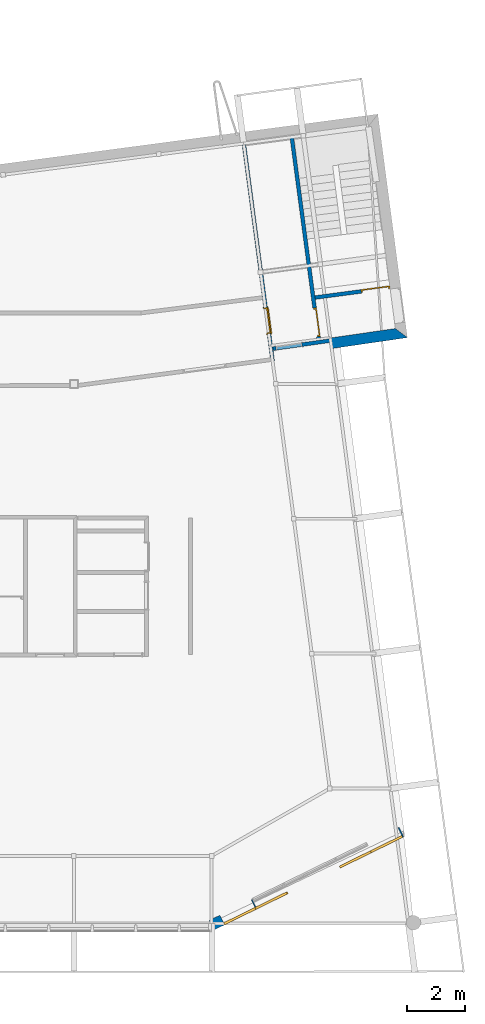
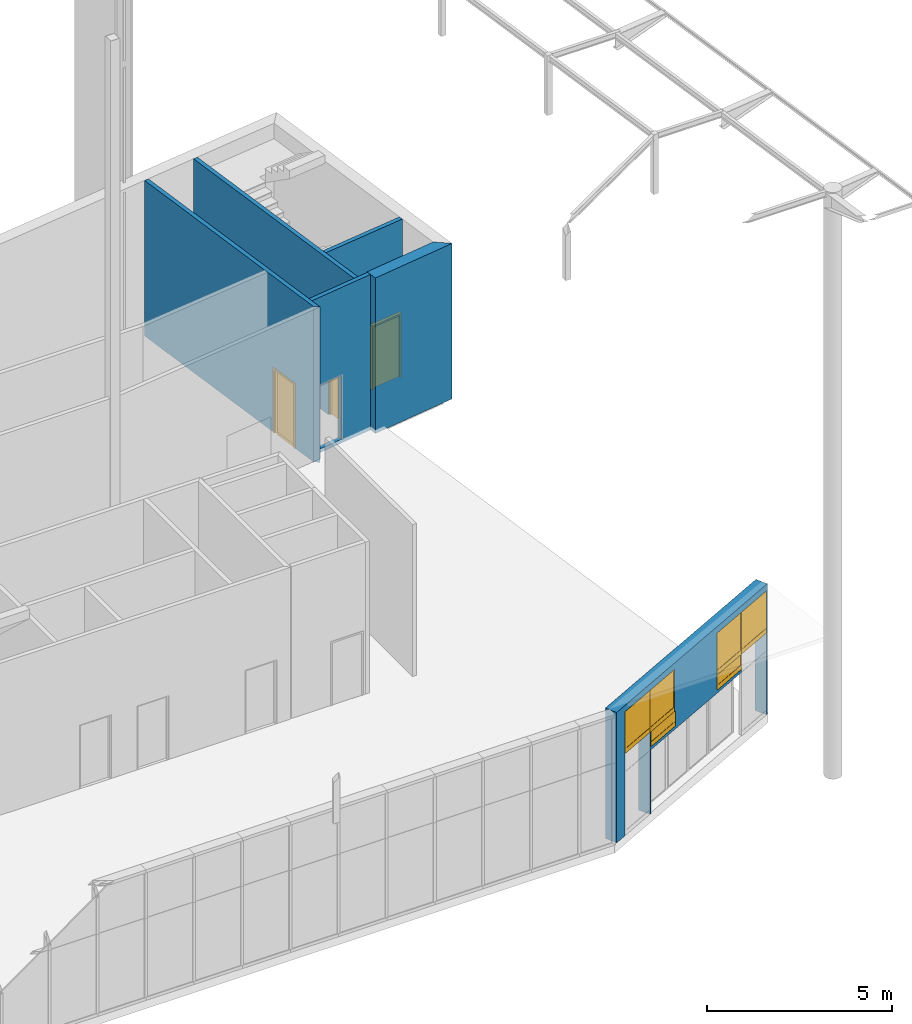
# One storey, part 28 of 40: 6 walls, 6 windows, 3 doors, 15 openings.
"""IFC2X3 building model written with IfcOpenShell, lengths in metres."""

from ifc_helpers import new_model, entity, si_unit, converted_unit, money_unit, direction, frame, origin_with_axes, origin_2d_with_axis, place, context, subcontext, project, spatial, polyline, rectangle, outline, extrude, faceted_brep, source, transform, mapped, material, material_list, layer, layer_set, layer_usage, type_object, element, fill, save


model = new_model("IFC2X3")

# Units and contexts
model_context = context("Model", 3, precision=1e-05, world=origin_with_axes(), true_north=direction((0.0, 1.0)))
body_context = subcontext(model_context, "Body", "Model", "MODEL_VIEW")
ifc_project = project(units=[si_unit("LENGTHUNIT", "METRE"), si_unit("AREAUNIT", "SQUARE_METRE"), si_unit("VOLUMEUNIT", "CUBIC_METRE"), converted_unit("PLANEANGLEUNIT", "DEGREE", entity("IfcPlaneAngleMeasure", 0.0174532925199), si_unit("PLANEANGLEUNIT", "RADIAN"), dimensions=[0, 0, 0, 0, 0, 0, 0]), si_unit("SOLIDANGLEUNIT", "STERADIAN"), money_unit("EUR"), converted_unit("TIMEUNIT", "Year", entity("IfcTimeMeasure", 31556926.0), si_unit("TIMEUNIT", "SECOND"), dimensions=[0, 0, 0, 0, 0, 0, 0]), si_unit("MASSUNIT", "GRAM"), si_unit("THERMODYNAMICTEMPERATUREUNIT", "DEGREE_CELSIUS"), si_unit("LUMINOUSINTENSITYUNIT", "LUMEN")], contexts=[model_context])

# Site, building, storey
site_placement = place(None, origin_with_axes())
site = spatial("IfcSite", under=ifc_project, at=site_placement, Name="Undefined", CompositionType="ELEMENT")
building_placement = place(site_placement, origin_with_axes())
building = spatial("IfcBuilding", under=site, at=building_placement, Name="Undefined", CompositionType="ELEMENT")
storey_placement = place(building_placement, origin_with_axes())
storey = spatial("IfcBuildingStorey", under=building, at=storey_placement, Name="Rez de chauss\x8ee", CompositionType="ELEMENT", Elevation=0.0)

# Wall, opening, door
ifc_material_1 = material(Name="Finition int - Enduit pl\x89tre")
ifc_layer_1 = layer(ifc_material_1, 0.015, ventilated="UNKNOWN")
ifc_material_2 = material(Name="Struct. - Parpaing b\x8eton")
ifc_layer_2 = layer(ifc_material_2, 0.1, ventilated="UNKNOWN")
ifc_layer_3 = layer(ifc_material_1, 0.015, ventilated="UNKNOWN")
ifc_layer_set_1 = layer_set([ifc_layer_1, ifc_layer_2, ifc_layer_3], Name="0.0-Cloison: parpaing + pl\x89tre 2 faces copie")
ifc_layer_usage_1 = layer_usage(ifc_layer_set_1, "AXIS2", "POSITIVE", 0.0)
wall_type_1 = type_object("IfcWallType", Name="0.0-Cloison: parpaing + pl\x89tre 2 faces copie 130", PredefinedType="NOTDEFINED")
wall_1_placement = place(storey_placement, frame((65.1767239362, 21.5120958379, -0.1), z_axis=(0.0, 0.0, 1.0), x_axis=(0.99119748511, 0.132391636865, 0.0)))
wall_1 = element("IfcWallStandardCase", 1, at=wall_1_placement, inside=storey, type_object=wall_type_1, material=ifc_layer_usage_1, Name="Wall_Int_02", context=body_context, shape_type="SweptSolid", body=[
    extrude(outline(polyline([(0.0, 0.0), (2.6036897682, 0.0), (2.60383514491, 0.13), (0.0, 0.13), (0.0, 0.0)])), origin_with_axes(), (0.0, 0.0, 1.0), 5.22),
])
opening_1_placement = place(wall_1_placement, frame((2.10370326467, 0.0, 0.0), z_axis=(0.0, 0.0, 1.0), x_axis=(1.0, 0.0, 0.0)))
opening_1 = element("IfcOpeningElement", 2, at=opening_1_placement, cuts=wall_1, Name="DOOR_1000", context=body_context, shape_type="SweptSolid", body=[
    extrude(rectangle(XDim=1.0, YDim=2.1, at=origin_2d_with_axis()), frame((0.0, 0.26, 1.05), z_axis=(0.0, -1.0, 0.0), x_axis=(1.0, 0.0, 0.0)), (0.0, 0.0, 1.0), 0.13),
    extrude(rectangle(XDim=1.0, YDim=2.1, at=origin_2d_with_axis()), frame((0.0, 0.0, 1.05), z_axis=(0.0, 1.0, 0.0), x_axis=(1.0, 0.0, 0.0)), (0.0, 0.0, 1.0), 0.13),
])
ifc_material_3 = material(Name="Background Fill-International")
ifc_material_4 = material(Name="Air Space")
ifc_material_list_1 = material_list([ifc_material_3, ifc_material_4])
door_style_1 = type_object("IfcDoorStyle", Name="IFC Porte - Simple battant", ConstructionType="NOTDEFINED", OperationType="SINGLE_SWING_RIGHT", ParameterTakesPrecedence=True, Sizeable=False)
shared_shape_1 = source(origin_with_axes(), body_context, "Body", "Brep", [
    faceted_brep([(-0.5, 0.0, 0.0), (-0.45, 0.0, 0.0), (-0.45, -0.1, 0.0), (-0.5, -0.1, 0.0), (-0.5, 0.0, 2.1), (0.5, 0.0, 2.1), (0.5, 0.0, 0.0), (0.45, 0.0, 0.0), (0.45, 0.0, 2.05), (-0.45, 0.0, 2.05), (-0.45, -0.1, 2.05), (0.45, -0.1, 2.05), (0.45, -0.1, 0.0), (0.5, -0.1, 0.0), (0.5, -0.1, 2.1), (-0.5, -0.1, 2.1)], [[[0, 1, 2, 3]], [[0, 4, 5, 6, 7, 8, 9, 1]], [[1, 9, 10, 2]], [[3, 2, 10, 11, 12, 13, 14, 15]], [[4, 0, 3, 15]], [[5, 4, 15, 14]], [[6, 5, 14, 13]], [[7, 6, 13, 12]], [[8, 7, 12, 11]], [[9, 8, 11, 10]]]),
    faceted_brep([(0.45, 0.0, 0.0), (0.45, 0.0, 2.05), (0.45, -0.04, 2.05), (0.45, -0.04, 0.0), (-0.45, 0.0, 0.0), (-0.45, 0.0, 2.05), (-0.45, -0.04, 2.05), (-0.45, -0.04, 0.0)], [[[0, 1, 2, 3]], [[0, 4, 5, 1]], [[1, 5, 6, 2]], [[3, 2, 6, 7]], [[4, 0, 3, 7]], [[5, 4, 7, 6]]]),
])
door_1_placement = place(opening_1_placement, frame((-0.5, 0.0, 0.0), z_axis=(0.0, 0.0, 1.0), x_axis=(1.0, 0.0, 0.0)))
door_1 = element("IfcDoor", 3, at=door_1_placement, inside=storey, type_object=door_style_1, material=ifc_material_list_1, Name="DOOR_1000", ObjectType="DOOR", OverallHeight=2.1, OverallWidth=1.0, context=body_context, shape_type="MappedRepresentation", body=[
    mapped(shared_shape_1, transform((0.5, 0.13, 0.0))),
])
fill(opening_1, door_1)

# Wall, opening
ifc_layer_usage_2 = layer_usage(ifc_layer_set_1, "AXIS2", "NEGATIVE", 0.065)
wall_2_placement = place(storey_placement, frame((65.7020913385, 20.0943082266, 0.0), z_axis=(0.0, 0.0, 1.0), x_axis=(-0.990097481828, -0.140381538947, 0.0)))
wall_2 = element("IfcWallStandardCase", 4, at=wall_2_placement, inside=storey, type_object=wall_type_1, material=ifc_layer_usage_2, Name="Wall_Int_06", context=body_context, shape_type="SweptSolid", body=[
    extrude(outline(polyline([(0.0, -0.065), (2.00739739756, -0.065), (2.00858857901, 0.065), (0.0, 0.065), (0.0, -0.065)])), origin_with_axes(), (0.0, 0.0, 1.0), 5.12),
])
opening_2_placement = place(wall_2_placement, frame((1.44758118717, 0.0, 0.12), z_axis=(0.0, 0.0, 1.0), x_axis=(1.0, 0.0, 0.0)))
element("IfcOpeningElement", 5, at=opening_2_placement, cuts=wall_2, Name="DOOR_1000", context=body_context, shape_type="SweptSolid", body=[
    extrude(rectangle(XDim=0.9, YDim=2.1, at=origin_2d_with_axis()), frame((0.0, 0.13, 1.05), z_axis=(0.0, -1.0, 0.0), x_axis=(-1.0, 0.0, 0.0)), (0.0, 0.0, 1.0), 0.39),
    extrude(rectangle(XDim=0.974, YDim=2.137, at=origin_2d_with_axis()), frame((0.0, 0.195, 1.0685), z_axis=(0.0, -1.0, 0.0), x_axis=(-1.0, 0.0, 0.0)), (0.0, 0.0, 1.0), 0.13),
    extrude(rectangle(XDim=0.974, YDim=2.137, at=origin_2d_with_axis()), frame((0.0, -0.195, 1.0685), z_axis=(0.0, 1.0, 0.0), x_axis=(-1.0, 0.0, 0.0)), (0.0, 0.0, 1.0), 0.13),
])

# Wall, opening, door
ifc_layer_usage_3 = layer_usage(ifc_layer_set_1, "AXIS2", "NEGATIVE", 0.065)
wall_3_placement = place(storey_placement, frame((62.6592545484, 27.280570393, 0.0), z_axis=(0.0, 0.0, 1.0), x_axis=(0.131303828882, -0.991342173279, 0.0)))
wall_3 = element("IfcWallStandardCase", 6, at=wall_3_placement, inside=storey, type_object=wall_type_1, material=ifc_layer_usage_3, Name="Wall_Int_05", context=body_context, shape_type="SweptSolid", body=[
    extrude(outline(polyline([(0.370027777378, -0.065), (7.84212147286, -0.065), (7.97199658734, 0.065), (0.369972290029, 0.065), (0.370027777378, -0.065)])), origin_with_axes(), (0.0, 0.0, 1.0), 5.12),
])
opening_3_placement = place(wall_3_placement, frame((6.55797103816, 0.0, 0.0), z_axis=(0.0, 0.0, 1.0), x_axis=(1.0, 0.0, 0.0)))
opening_3 = element("IfcOpeningElement", 7, at=opening_3_placement, cuts=wall_3, Name="DOOR_1000", context=body_context, shape_type="SweptSolid", body=[
    extrude(rectangle(XDim=0.9, YDim=2.1, at=origin_2d_with_axis()), frame((0.0, -0.13, 1.05), z_axis=(0.0, -1.0, 0.0), x_axis=(-1.0, 0.0, 0.0)), (0.0, 0.0, -1.0), 0.39),
    extrude(rectangle(XDim=0.9, YDim=0.105069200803, at=origin_2d_with_axis()), frame((0.0, 0.195, -0.0525346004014), z_axis=(0.0, 1.0, 0.0), x_axis=(-1.0, 0.0, 0.0)), (0.0, 0.0, -1.0), 0.167364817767),
    extrude(rectangle(XDim=0.974, YDim=2.137, at=origin_2d_with_axis()), frame((0.0, -0.195, 1.0685), z_axis=(0.0, -1.0, 0.0), x_axis=(-1.0, 0.0, 0.0)), (0.0, 0.0, -1.0), 0.13),
    extrude(rectangle(XDim=0.974, YDim=2.2420692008, at=origin_2d_with_axis()), frame((0.0, 0.195, 1.0159653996), z_axis=(0.0, 1.0, 0.0), x_axis=(-1.0, 0.0, 0.0)), (0.0, 0.0, -1.0), 0.13),
])
ifc_material_5 = material(Name="Foreground Fill-International")
ifc_material_6 = material(Name="07 | Insulation Rigid")
ifc_material_list_2 = material_list([ifc_material_3, ifc_material_4, ifc_material_5, ifc_material_3, ifc_material_3, ifc_material_3, ifc_material_3, ifc_material_6, ifc_material_3, ifc_material_3, ifc_material_3, ifc_material_3, ifc_material_4, ifc_material_3, ifc_material_3, ifc_material_3])
door_style_2 = type_object("IfcDoorStyle", Name="Porte 18", ConstructionType="NOTDEFINED", OperationType="SINGLE_SWING_LEFT", ParameterTakesPrecedence=False, Sizeable=False)
shared_shape_2 = source(origin_with_axes(), body_context, "Body", "Brep", [
    faceted_brep([(0.45, -0.02, 0.0), (0.45, 0.0373648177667, -0.0101149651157), (-0.45, 0.0373648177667, -0.0101149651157), (-0.45, -0.02, 0.0), (0.45, -0.0373648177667, -0.0984807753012), (0.45, 0.02, -0.108595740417), (-0.45, 0.02, -0.108595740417), (-0.45, -0.0373648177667, -0.0984807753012)], [[[0, 1, 2, 3]], [[0, 4, 5, 1]], [[1, 5, 6, 2]], [[3, 2, 6, 7]], [[4, 0, 3, 7]], [[5, 4, 7, 6]]]),
    faceted_brep([(0.45, -0.115, 0.0), (0.45, -0.13, 0.0), (0.425, -0.13, 0.0), (0.425, -0.115, 0.0), (0.45, -0.115, 2.1), (0.45, -0.13, 2.1), (0.425, -0.13, 2.075), (0.425, -0.115, 2.075)], [[[0, 1, 2, 3]], [[4, 5, 1, 0]], [[1, 5, 6, 2]], [[3, 2, 6, 7]], [[0, 3, 7, 4]], [[7, 6, 5, 4]]]),
    faceted_brep([(-0.45, -0.115, 2.1), (-0.45, -0.13, 2.1), (-0.425, -0.13, 2.075), (-0.425, -0.115, 2.075), (-0.45, -0.115, 0.0), (-0.45, -0.13, 0.0), (-0.425, -0.13, 0.0), (-0.425, -0.115, 0.0)], [[[0, 1, 2, 3]], [[4, 5, 1, 0]], [[1, 5, 6, 2]], [[3, 2, 6, 7]], [[0, 3, 7, 4]], [[7, 6, 5, 4]]]),
    faceted_brep([(0.425, -0.115, 2.075), (0.425, -0.13, 2.075), (-0.425, -0.13, 2.075), (-0.425, -0.115, 2.075), (0.45, -0.115, 2.1), (0.45, -0.13, 2.1), (-0.45, -0.13, 2.1), (-0.45, -0.115, 2.1)], [[[0, 1, 2, 3]], [[4, 5, 1, 0]], [[1, 5, 6, 2]], [[3, 2, 6, 7]], [[0, 3, 7, 4]], [[7, 6, 5, 4]]]),
    faceted_brep([(0.487, -0.149, 0.0), (0.437, -0.149, 0.0), (0.437, -0.13, 0.0), (0.487, -0.13, 0.0), (0.487, -0.149, 2.137), (0.437, -0.149, 2.087), (0.437, -0.13, 2.087), (0.487, -0.13, 2.137)], [[[0, 1, 2, 3]], [[0, 4, 5, 1]], [[1, 5, 6, 2]], [[3, 2, 6, 7]], [[4, 0, 3, 7]], [[5, 4, 7, 6]]]),
    faceted_brep([(-0.487, -0.149, 2.137), (-0.437, -0.149, 2.087), (-0.437, -0.13, 2.087), (-0.487, -0.13, 2.137), (-0.487, -0.149, 0.0), (-0.437, -0.149, 0.0), (-0.437, -0.13, 0.0), (-0.487, -0.13, 0.0)], [[[0, 1, 2, 3]], [[0, 4, 5, 1]], [[1, 5, 6, 2]], [[3, 2, 6, 7]], [[4, 0, 3, 7]], [[5, 4, 7, 6]]]),
    faceted_brep([(0.487, -0.149, 2.137), (0.437, -0.149, 2.087), (0.437, -0.13, 2.087), (0.487, -0.13, 2.137), (-0.487, -0.149, 2.137), (-0.437, -0.149, 2.087), (-0.437, -0.13, 2.087), (-0.487, -0.13, 2.137)], [[[0, 1, 2, 3]], [[0, 4, 5, 1]], [[1, 5, 6, 2]], [[3, 2, 6, 7]], [[4, 0, 3, 7]], [[5, 4, 7, 6]]]),
    faceted_brep([(0.45, 0.0, -0.00352653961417), (0.487, 0.0, -0.00352653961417), (0.487, 0.0, 2.137), (0.437, 0.0, 2.087), (0.437, 0.0, -0.00352653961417), (0.45, 0.019, -0.00687675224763), (0.487, 0.019, -0.00687675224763), (0.487, 0.019, 2.137), (0.437, 0.019, 2.087), (0.437, 0.019, -0.00687675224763)], [[[0, 1, 2, 3, 4]], [[0, 5, 6, 1]], [[2, 1, 6, 7]], [[3, 2, 7, 8]], [[4, 3, 8, 9]], [[9, 5, 0, 4]], [[5, 9, 8, 7, 6]]]),
    faceted_brep([(-0.45, 0.0, -0.00352653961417), (-0.437, 0.0, -0.00352653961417), (-0.437, 0.0, 2.087), (-0.487, 0.0, 2.137), (-0.487, 0.0, -0.00352653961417), (-0.45, 0.019, -0.00687675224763), (-0.437, 0.019, -0.00687675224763), (-0.437, 0.019, 2.087), (-0.487, 0.019, 2.137), (-0.487, 0.019, -0.00687675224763)], [[[0, 1, 2, 3, 4]], [[0, 5, 6, 1]], [[6, 7, 2, 1]], [[3, 2, 7, 8]], [[9, 4, 3, 8]], [[0, 4, 9, 5]], [[5, 9, 8, 7, 6]]]),
    faceted_brep([(0.487, 0.019, 2.137), (0.487, 0.0, 2.137), (0.437, 0.0, 2.087), (0.437, 0.019, 2.087), (-0.487, 0.019, 2.137), (-0.487, 0.0, 2.137), (-0.437, 0.0, 2.087), (-0.437, 0.019, 2.087)], [[[0, 1, 2, 3]], [[4, 5, 1, 0]], [[1, 5, 6, 2]], [[3, 2, 6, 7]], [[0, 3, 7, 4]], [[7, 6, 5, 4]]]),
    faceted_brep([(0.41, -0.04, 0.0), (0.41, -0.115, 0.0), (0.41, -0.115, 2.06), (0.41, -0.04, 2.06), (0.422, -0.04, 0.0), (0.422, 0.0, 0.0), (0.45, 0.0, 0.0), (0.45, -0.115, 0.0), (0.45, -0.115, 2.06), (0.422, -0.04, 2.06), (0.45, 0.0, 2.06), (0.422, 0.0, 2.06)], [[[0, 1, 2, 3]], [[4, 5, 6, 7, 1, 0]], [[8, 2, 1, 7]], [[9, 3, 2, 8, 10, 11]], [[9, 4, 0, 3]], [[11, 5, 4, 9]], [[11, 10, 6, 5]], [[8, 7, 6, 10]]]),
    faceted_brep([(-0.422, -0.04, 2.06), (-0.422, 0.0, 2.06), (-0.45, 0.0, 2.06), (-0.45, -0.115, 2.06), (-0.41, -0.115, 2.06), (-0.41, -0.04, 2.06), (-0.422, -0.04, 0.0), (-0.422, 0.0, 0.0), (-0.45, 0.0, 0.0), (-0.45, -0.115, 0.0), (-0.41, -0.115, 0.0), (-0.41, -0.04, 0.0)], [[[0, 1, 2, 3, 4, 5]], [[0, 6, 7, 1]], [[7, 8, 2, 1]], [[9, 3, 2, 8]], [[10, 4, 3, 9]], [[5, 4, 10, 11]], [[5, 11, 6, 0]], [[6, 11, 10, 9, 8, 7]]]),
    faceted_brep([(0.422, 0.0, 2.072), (-0.422, 0.0, 2.072), (-0.422, 0.0, 2.06), (-0.45, 0.0, 2.06), (-0.45, 0.0, 2.1), (0.45, 0.0, 2.1), (0.45, 0.0, 2.06), (0.422, 0.0, 2.06), (0.422, -0.04, 2.072), (-0.422, -0.04, 2.072), (-0.422, -0.04, 2.06), (-0.41, -0.04, 2.06), (-0.41, -0.115, 2.06), (-0.45, -0.115, 2.06), (-0.45, -0.115, 2.1), (0.45, -0.115, 2.1), (0.45, -0.115, 2.06), (0.422, -0.04, 2.06), (0.41, -0.115, 2.06), (0.41, -0.04, 2.06)], [[[0, 1, 2, 3, 4, 5, 6, 7]], [[0, 8, 9, 1]], [[1, 9, 10, 2]], [[10, 11, 12, 13, 3, 2]], [[13, 14, 4, 3]], [[14, 15, 5, 4]], [[15, 16, 6, 5]], [[17, 7, 6, 16, 18, 19]], [[7, 17, 8, 0]], [[10, 9, 8, 17, 19, 11]], [[19, 18, 12, 11]], [[14, 13, 12, 18, 16, 15]]]),
    faceted_brep([(-0.422, 0.0, 0.0), (0.422, 0.0, 0.0), (0.422, -0.04, 0.0), (-0.422, -0.04, 0.0), (-0.422, 0.0, 2.072), (0.422, 0.0, 2.072), (0.422, -0.04, 2.072), (-0.422, -0.04, 2.072)], [[[0, 1, 2, 3]], [[0, 4, 5, 1]], [[1, 5, 6, 2]], [[3, 2, 6, 7]], [[4, 0, 3, 7]], [[5, 4, 7, 6]]]),
])
door_2_placement = place(opening_3_placement, frame((-0.45, 0.0, 0.0), z_axis=(0.0, 0.0, 1.0), x_axis=(1.0, 0.0, 0.0)))
door_2 = element("IfcDoor", 8, at=door_2_placement, inside=storey, type_object=door_style_2, material=ifc_material_list_2, Name="DOOR_1000", ObjectType="DOOR", OverallHeight=2.1, OverallWidth=0.9, context=body_context, shape_type="MappedRepresentation", body=[
    mapped(shared_shape_2, transform((0.45, 0.065, 0.0))),
])
fill(opening_3, door_2)

ifc_layer_usage_4 = layer_usage(ifc_layer_set_1, "AXIS2", "POSITIVE", 0.0)
wall_4_placement = place(storey_placement, frame((65.3723389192, 20.0475540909, 0.0), z_axis=(0.0, 0.0, 1.0), x_axis=(-0.132391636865, 0.99119748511, 0.0)))
wall_4 = element("IfcWallStandardCase", 9, at=wall_4_placement, inside=storey, type_object=wall_type_1, material=ifc_layer_usage_4, Name="VOILE_15CM", ObjectType="5850*150", context=body_context, shape_type="SweptSolid", body=[
    extrude(outline(polyline([(0.0650021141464, 0.0), (7.15737601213, 0.0), (7.15746318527, 0.13), (0.0639536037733, 0.13), (0.0650021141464, 0.0)])), origin_with_axes(), (0.0, 0.0, 1.0), 5.12),
])
opening_4_placement = place(wall_4_placement, frame((0.69384941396, 0.0, 0.0), z_axis=(0.0, 0.0, 1.0), x_axis=(1.0, 0.0, 0.0)))
opening_4 = element("IfcOpeningElement", 10, at=opening_4_placement, cuts=wall_4, Name="DOOR_1000", context=body_context, shape_type="SweptSolid", body=[
    extrude(rectangle(XDim=1.0, YDim=2.1, at=origin_2d_with_axis()), frame((0.0, -0.13, 1.05), z_axis=(0.0, 1.0, 0.0), x_axis=(1.0, 0.0, 0.0)), (0.0, 0.0, 1.0), 0.13),
    extrude(rectangle(XDim=1.0, YDim=2.1, at=origin_2d_with_axis()), frame((0.0, 0.13, 1.05), z_axis=(0.0, -1.0, 0.0), x_axis=(1.0, 0.0, 0.0)), (0.0, 0.0, 1.0), 0.13),
])
door_style_3 = type_object("IfcDoorStyle", Name="IFC Porte - Simple battant", ConstructionType="NOTDEFINED", OperationType="SINGLE_SWING_RIGHT", ParameterTakesPrecedence=True, Sizeable=False)
door_3_placement = place(opening_4_placement, frame((0.5, 0.0, 0.0), z_axis=(0.0, 0.0, 1.0), x_axis=(-1.0, 0.0, 0.0)))
door_3 = element("IfcDoor", 11, at=door_3_placement, inside=storey, type_object=door_style_3, material=ifc_material_list_1, Name="DOOR_1000", ObjectType="DOOR", OverallHeight=2.1, OverallWidth=1.0, context=body_context, shape_type="MappedRepresentation", body=[
    mapped(shared_shape_1, transform((0.5, 0.0, 0.0))),
])
fill(opening_4, door_3)

# Wall
ifc_material_7 = material(Name="Finition ext - Cr\x8epis")
ifc_layer_4 = layer(ifc_material_7, 0.015, ventilated="UNKNOWN")
ifc_material_8 = material(Name="Isolation - Fibres de bois")
ifc_layer_5 = layer(ifc_material_8, 0.16, ventilated="UNKNOWN")
ifc_material_9 = material(Name="Struct. - B.A. banch\x8e")
ifc_layer_6 = layer(ifc_material_9, 0.18, ventilated="UNKNOWN")
ifc_layer_7 = layer(ifc_material_1, 0.015, ventilated="UNKNOWN")
ifc_layer_set_2 = layer_set([ifc_layer_4, ifc_layer_5, ifc_layer_6, ifc_layer_7], Name="1.2-Mur ext: rev\x8et ext + isol ext + ma\x8donnerie + enduit")
ifc_layer_usage_5 = layer_usage(ifc_layer_set_2, "AXIS2", "POSITIVE", 0.0)
wall_type_2 = type_object("IfcWallType", Name="1.2-Mur ext: rev\x8et ext + isol ext + ma\x8donnerie + enduit 370", PredefinedType="NOTDEFINED")
wall_5_placement = place(storey_placement, frame((65.7425419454, 19.8172449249, 0.0), z_axis=(0.0, 0.0, 1.0), x_axis=(0.989654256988, 0.143472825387, 0.0)))
element("IfcWallStandardCase", 12, at=wall_5_placement, inside=storey, type_object=wall_type_2, material=ifc_layer_usage_5, Name="ExtWall_01", ObjectType="WALL", context=body_context, shape_type="SweptSolid", body=[
    extrude(outline(polyline([(0.0, 0.0), (2.63547220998, 0.0), (2.26999781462, 0.37), (0.0, 0.37), (0.0, 0.0)])), origin_with_axes(), (0.0, 0.0, 1.0), 5.12),
])

# Wall, openings, windows
ifc_layer_usage_6 = layer_usage(ifc_layer_set_2, "AXIS2", "NEGATIVE", 0.185)
wall_6_placement = place(storey_placement, frame((68.1452534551, 3.14749727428, 0.1), z_axis=(0.0, 0.0, 1.0), x_axis=(-0.897767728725, -0.440469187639, 0.0)))
wall_6 = element("IfcWallStandardCase", 13, at=wall_6_placement, inside=storey, type_object=wall_type_2, material=ifc_layer_usage_6, Name="SW - 013", ObjectType="WALL", context=body_context, shape_type="SweptSolid", body=[
    extrude(outline(polyline([(0.0, -0.185), (7.28970277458, -0.185), (7.28970277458, 0.185), (0.0, 0.185), (0.0, -0.185)])), origin_with_axes(), (0.0, 0.0, 1.0), 4.2926011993),
])
opening_5_placement = place(wall_6_placement, frame((6.28183813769, 0.0, 0.0), z_axis=(0.0, 0.0, 1.0), x_axis=(1.0, 0.0, 0.0)))
element("IfcOpeningElement", 14, at=opening_5_placement, cuts=wall_6, Name="WD - 003", context=body_context, shape_type="SweptSolid", body=[
    extrude(rectangle(XDim=1.2, YDim=2.7, at=origin_2d_with_axis()), frame((0.0, -0.37, 1.35), z_axis=(0.0, 1.0, 0.0), x_axis=(1.0, 0.0, 0.0)), (0.0, 0.0, 1.0), 1.11),
])
opening_6_placement = place(wall_6_placement, frame((5.08183813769, 0.0, 2.7), z_axis=(0.0, 0.0, 1.0), x_axis=(1.0, 0.0, 0.0)))
opening_6 = element("IfcOpeningElement", 15, at=opening_6_placement, cuts=wall_6, Name="WD - 003", context=body_context, shape_type="SweptSolid", body=[
    extrude(rectangle(XDim=1.2, YDim=1.38165160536, at=origin_2d_with_axis()), frame((0.0, -0.37, 0.690825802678), z_axis=(0.0, 1.0, 0.0), x_axis=(1.0, 0.0, 0.0)), (0.0, 0.0, 1.0), 1.11),
])
opening_7_placement = place(wall_6_placement, frame((6.28183813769, 0.0, 2.7), z_axis=(0.0, 0.0, 1.0), x_axis=(1.0, 0.0, 0.0)))
opening_7 = element("IfcOpeningElement", 16, at=opening_7_placement, cuts=wall_6, Name="WD - 003", context=body_context, shape_type="SweptSolid", body=[
    extrude(rectangle(XDim=1.2, YDim=1.38165160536, at=origin_2d_with_axis()), frame((0.0, -0.37, 0.690825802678), z_axis=(0.0, 1.0, 0.0), x_axis=(1.0, 0.0, 0.0)), (0.0, 0.0, 1.0), 1.11),
])
opening_8_placement = place(wall_6_placement, frame((0.641172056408, 0.0, 0.0), z_axis=(0.0, 0.0, 1.0), x_axis=(1.0, 0.0, 0.0)))
element("IfcOpeningElement", 17, at=opening_8_placement, cuts=wall_6, Name="WD - 003", context=body_context, shape_type="SweptSolid", body=[
    extrude(rectangle(XDim=1.2, YDim=2.7, at=origin_2d_with_axis()), frame((0.0, -0.37, 1.35), z_axis=(0.0, 1.0, 0.0), x_axis=(1.0, 0.0, 0.0)), (0.0, 0.0, 1.0), 1.11),
])
opening_9_placement = place(wall_6_placement, frame((0.641172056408, 0.0, 2.7), z_axis=(0.0, 0.0, 1.0), x_axis=(1.0, 0.0, 0.0)))
opening_9 = element("IfcOpeningElement", 18, at=opening_9_placement, cuts=wall_6, Name="WD - 003", context=body_context, shape_type="SweptSolid", body=[
    extrude(rectangle(XDim=1.2, YDim=1.38165160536, at=origin_2d_with_axis()), frame((0.0, -0.37, 0.690825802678), z_axis=(0.0, 1.0, 0.0), x_axis=(1.0, 0.0, 0.0)), (0.0, 0.0, 1.0), 1.11),
])
opening_10_placement = place(wall_6_placement, frame((1.84117205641, 0.0, 2.7), z_axis=(0.0, 0.0, 1.0), x_axis=(1.0, 0.0, 0.0)))
opening_10 = element("IfcOpeningElement", 19, at=opening_10_placement, cuts=wall_6, Name="WD - 003", context=body_context, shape_type="SweptSolid", body=[
    extrude(rectangle(XDim=1.2, YDim=1.38165160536, at=origin_2d_with_axis()), frame((0.0, -0.37, 0.690825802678), z_axis=(0.0, 1.0, 0.0), x_axis=(1.0, 0.0, 0.0)), (0.0, 0.0, 1.0), 1.11),
])
opening_11_placement = place(wall_6_placement, frame((5.04117205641, 0.0, 2.2), z_axis=(0.0, 0.0, 1.0), x_axis=(1.0, 0.0, 0.0)))
opening_11 = element("IfcOpeningElement", 20, at=opening_11_placement, cuts=wall_6, Name="WD - 003", context=body_context, shape_type="SweptSolid", body=[
    extrude(rectangle(XDim=1.2, YDim=0.5, at=origin_2d_with_axis()), frame((0.0, -0.37, 0.25), z_axis=(0.0, 1.0, 0.0), x_axis=(1.0, 0.0, 0.0)), (0.0, 0.0, 1.0), 1.11),
])
opening_12_placement = place(wall_6_placement, frame((1.84117205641, 0.0, 2.2), z_axis=(0.0, 0.0, 1.0), x_axis=(1.0, 0.0, 0.0)))
opening_12 = element("IfcOpeningElement", 21, at=opening_12_placement, cuts=wall_6, Name="WD - 003", context=body_context, shape_type="SweptSolid", body=[
    extrude(rectangle(XDim=1.2, YDim=0.5, at=origin_2d_with_axis()), frame((0.0, -0.37, 0.25), z_axis=(0.0, 1.0, 0.0), x_axis=(1.0, 0.0, 0.0)), (0.0, 0.0, 1.0), 1.11),
])
opening_13_placement = place(wall_6_placement, frame((5.04117205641, 0.0, 0.0), z_axis=(0.0, 0.0, 1.0), x_axis=(1.0, 0.0, 0.0)))
element("IfcOpeningElement", 22, at=opening_13_placement, cuts=wall_6, Name="DOOR", context=body_context, shape_type="SweptSolid", body=[
    extrude(rectangle(XDim=1.2, YDim=2.1, at=origin_2d_with_axis()), frame((0.0, 0.37, 1.05), z_axis=(0.0, 1.0, 0.0), x_axis=(-1.0, 0.0, 0.0)), (0.0, 0.0, -1.0), 1.11),
    extrude(rectangle(XDim=1.2, YDim=0.0260824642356, at=origin_2d_with_axis()), frame((0.0, -0.555, -0.0130412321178), z_axis=(0.0, -1.0, 0.0), x_axis=(-1.0, 0.0, 0.0)), (0.0, 0.0, -1.0), 0.391308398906),
])
opening_14_placement = place(wall_6_placement, frame((1.84117205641, 0.0, 0.0), z_axis=(0.0, 0.0, 1.0), x_axis=(1.0, 0.0, 0.0)))
element("IfcOpeningElement", 23, at=opening_14_placement, cuts=wall_6, Name="DOOR", context=body_context, shape_type="SweptSolid", body=[
    extrude(rectangle(XDim=1.2, YDim=2.1, at=origin_2d_with_axis()), frame((0.0, 0.37, 1.05), z_axis=(0.0, -1.0, 0.0), x_axis=(1.0, 0.0, 0.0)), (0.0, 0.0, 1.0), 1.11),
    extrude(rectangle(XDim=1.2, YDim=0.0260824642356, at=origin_2d_with_axis()), frame((0.0, -0.555, -0.0130412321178), z_axis=(0.0, 1.0, 0.0), x_axis=(1.0, 0.0, 0.0)), (0.0, 0.0, 1.0), 0.391308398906),
])
opening_15_placement = place(wall_6_placement, frame((3.44117205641, 0.0, 0.0), z_axis=(0.0, 0.0, 1.0), x_axis=(1.0, 0.0, 0.0)))
element("IfcOpeningElement", 24, at=opening_15_placement, cuts=wall_6, Name="DOOR", context=body_context, shape_type="SweptSolid", body=[
    extrude(rectangle(XDim=2.0, YDim=2.1, at=origin_2d_with_axis()), frame((0.0, 0.37, 1.05), z_axis=(0.0, 1.0, 0.0), x_axis=(-1.0, 0.0, 0.0)), (0.0, 0.0, -1.0), 1.11),
    extrude(rectangle(XDim=2.0, YDim=0.0260824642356, at=origin_2d_with_axis()), frame((0.0, -0.555, -0.0130412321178), z_axis=(0.0, -1.0, 0.0), x_axis=(-1.0, 0.0, 0.0)), (0.0, 0.0, -1.0), 0.391308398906),
])
ifc_material_10 = material(Name="05 | Aluminum")
ifc_material_list_3 = material_list([ifc_material_3, ifc_material_10, ifc_material_3, ifc_material_3])
window_style = type_object("IfcWindowStyle", Name="F devanture 3 15", ConstructionType="NOTDEFINED", OperationType="USERDEFINED", ParameterTakesPrecedence=False, Sizeable=False)
shared_shape_3 = source(origin_with_axes(), body_context, "Body", "Brep", [
    faceted_brep([(-0.6, 0.0, 1.38165160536), (-0.6, 0.0, 0.0), (-0.6, -0.08, 0.0), (-0.6, -0.08, 1.38165160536), (-0.56, 0.0, 1.34165160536), (-0.56, 0.0, 0.15), (-0.56, -0.08, 0.15), (-0.56, -0.08, 1.34165160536)], [[[0, 1, 2, 3]], [[0, 4, 5, 1]], [[1, 5, 6, 2]], [[3, 2, 6, 7]], [[4, 0, 3, 7]], [[5, 4, 7, 6]]]),
    faceted_brep([(0.6, 0.0, 0.0), (0.6, 0.0, 1.38165160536), (0.6, -0.08, 1.38165160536), (0.6, -0.08, 0.0), (0.56, 0.0, 0.15), (0.56, 0.0, 1.34165160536), (0.56, -0.08, 1.34165160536), (0.56, -0.08, 0.15)], [[[0, 1, 2, 3]], [[0, 4, 5, 1]], [[1, 5, 6, 2]], [[3, 2, 6, 7]], [[4, 0, 3, 7]], [[5, 4, 7, 6]]]),
    faceted_brep([(0.6, 0.0, 1.38165160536), (-0.6, 0.0, 1.38165160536), (-0.6, -0.08, 1.38165160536), (0.6, -0.08, 1.38165160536), (0.56, 0.0, 1.34165160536), (-0.56, 0.0, 1.34165160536), (-0.56, -0.08, 1.34165160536), (0.56, -0.08, 1.34165160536)], [[[0, 1, 2, 3]], [[0, 4, 5, 1]], [[1, 5, 6, 2]], [[3, 2, 6, 7]], [[4, 0, 3, 7]], [[5, 4, 7, 6]]]),
    faceted_brep([(0.6, 0.0, 0.0), (0.56, 0.0, 0.15), (0.56, -0.08, 0.15), (0.6, -0.08, 0.0), (-0.6, 0.0, 0.0), (-0.56, 0.0, 0.15), (-0.56, -0.08, 0.15), (-0.6, -0.08, 0.0)], [[[0, 1, 2, 3]], [[0, 4, 5, 1]], [[1, 5, 6, 2]], [[3, 2, 6, 7]], [[4, 0, 3, 7]], [[5, 4, 7, 6]]]),
    faceted_brep([(-0.56, -0.01, 0.15), (0.56, -0.01, 0.15), (0.56, -0.02, 0.15), (-0.56, -0.02, 0.15), (-0.56, -0.01, 1.34165160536), (0.56, -0.01, 1.34165160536), (0.56, -0.02, 1.34165160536), (-0.56, -0.02, 1.34165160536)], [[[0, 1, 2, 3]], [[0, 4, 5, 1]], [[1, 5, 6, 2]], [[3, 2, 6, 7]], [[4, 0, 3, 7]], [[5, 4, 7, 6]]]),
])
window_1_placement = place(opening_6_placement, frame((-0.6, 0.0, 0.0), z_axis=(0.0, 0.0, 1.0), x_axis=(1.0, 0.0, 0.0)))
window_1 = element("IfcWindow", 25, at=window_1_placement, inside=storey, type_object=window_style, material=ifc_material_list_3, Name="WD - 003", OverallHeight=1.38165, OverallWidth=1.2, context=body_context, shape_type="MappedRepresentation", body=[
    mapped(shared_shape_3, transform((0.6, 0.185, 0.0))),
])
fill(opening_6, window_1)
window_2_placement = place(opening_7_placement, frame((-0.6, 0.0, 0.0), z_axis=(0.0, 0.0, 1.0), x_axis=(1.0, 0.0, 0.0)))
window_2 = element("IfcWindow", 26, at=window_2_placement, inside=storey, type_object=window_style, material=ifc_material_list_3, Name="WD - 003", OverallHeight=1.38165, OverallWidth=1.2, context=body_context, shape_type="MappedRepresentation", body=[
    mapped(shared_shape_3, transform((0.6, 0.185, 0.0))),
])
fill(opening_7, window_2)
window_3_placement = place(opening_9_placement, frame((-0.6, 0.0, 0.0), z_axis=(0.0, 0.0, 1.0), x_axis=(1.0, 0.0, 0.0)))
window_3 = element("IfcWindow", 27, at=window_3_placement, inside=storey, type_object=window_style, material=ifc_material_list_3, Name="WD - 003", OverallHeight=1.38165, OverallWidth=1.2, context=body_context, shape_type="MappedRepresentation", body=[
    mapped(shared_shape_3, transform((0.6, 0.185, 0.0))),
])
fill(opening_9, window_3)
window_4_placement = place(opening_10_placement, frame((-0.6, 0.0, 0.0), z_axis=(0.0, 0.0, 1.0), x_axis=(1.0, 0.0, 0.0)))
window_4 = element("IfcWindow", 28, at=window_4_placement, inside=storey, type_object=window_style, material=ifc_material_list_3, Name="WD - 003", OverallHeight=1.38165, OverallWidth=1.2, context=body_context, shape_type="MappedRepresentation", body=[
    mapped(shared_shape_3, transform((0.6, 0.185, 0.0))),
])
fill(opening_10, window_4)
shared_shape_4 = source(origin_with_axes(), body_context, "Body", "Brep", [
    faceted_brep([(-0.6, 0.0, 0.5), (-0.6, 0.0, 0.0), (-0.6, -0.08, 0.0), (-0.6, -0.08, 0.5), (-0.56, 0.0, 0.46), (-0.56, 0.0, 0.15), (-0.56, -0.08, 0.15), (-0.56, -0.08, 0.46)], [[[0, 1, 2, 3]], [[0, 4, 5, 1]], [[1, 5, 6, 2]], [[3, 2, 6, 7]], [[4, 0, 3, 7]], [[5, 4, 7, 6]]]),
    faceted_brep([(0.6, 0.0, 0.0), (0.6, 0.0, 0.5), (0.6, -0.08, 0.5), (0.6, -0.08, 0.0), (0.56, 0.0, 0.15), (0.56, 0.0, 0.46), (0.56, -0.08, 0.46), (0.56, -0.08, 0.15)], [[[0, 1, 2, 3]], [[0, 4, 5, 1]], [[1, 5, 6, 2]], [[3, 2, 6, 7]], [[4, 0, 3, 7]], [[5, 4, 7, 6]]]),
    faceted_brep([(0.6, 0.0, 0.5), (-0.6, 0.0, 0.5), (-0.6, -0.08, 0.5), (0.6, -0.08, 0.5), (0.56, 0.0, 0.46), (-0.56, 0.0, 0.46), (-0.56, -0.08, 0.46), (0.56, -0.08, 0.46)], [[[0, 1, 2, 3]], [[0, 4, 5, 1]], [[1, 5, 6, 2]], [[3, 2, 6, 7]], [[4, 0, 3, 7]], [[5, 4, 7, 6]]]),
    faceted_brep([(0.6, 0.0, 0.0), (0.56, 0.0, 0.15), (0.56, -0.08, 0.15), (0.6, -0.08, 0.0), (-0.6, 0.0, 0.0), (-0.56, 0.0, 0.15), (-0.56, -0.08, 0.15), (-0.6, -0.08, 0.0)], [[[0, 1, 2, 3]], [[0, 4, 5, 1]], [[1, 5, 6, 2]], [[3, 2, 6, 7]], [[4, 0, 3, 7]], [[5, 4, 7, 6]]]),
    faceted_brep([(-0.56, -0.01, 0.15), (0.56, -0.01, 0.15), (0.56, -0.02, 0.15), (-0.56, -0.02, 0.15), (-0.56, -0.01, 0.46), (0.56, -0.01, 0.46), (0.56, -0.02, 0.46), (-0.56, -0.02, 0.46)], [[[0, 1, 2, 3]], [[0, 4, 5, 1]], [[1, 5, 6, 2]], [[3, 2, 6, 7]], [[4, 0, 3, 7]], [[5, 4, 7, 6]]]),
])
window_5_placement = place(opening_11_placement, frame((-0.6, 0.0, 0.0), z_axis=(0.0, 0.0, 1.0), x_axis=(1.0, 0.0, 0.0)))
window_5 = element("IfcWindow", 29, at=window_5_placement, inside=storey, type_object=window_style, material=ifc_material_list_3, Name="WD - 003", OverallHeight=0.5, OverallWidth=1.2, context=body_context, shape_type="MappedRepresentation", body=[
    mapped(shared_shape_4, transform((0.6, 0.185, 0.0))),
])
fill(opening_11, window_5)
window_6_placement = place(opening_12_placement, frame((-0.6, 0.0, 0.0), z_axis=(0.0, 0.0, 1.0), x_axis=(1.0, 0.0, 0.0)))
window_6 = element("IfcWindow", 30, at=window_6_placement, inside=storey, type_object=window_style, material=ifc_material_list_3, Name="WD - 003", OverallHeight=0.5, OverallWidth=1.2, context=body_context, shape_type="MappedRepresentation", body=[
    mapped(shared_shape_4, transform((0.6, 0.185, 0.0))),
])
fill(opening_12, window_6)

save(model, "model.ifc")
